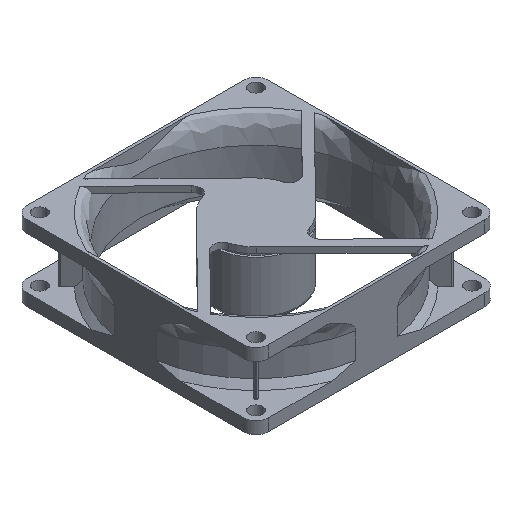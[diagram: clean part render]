
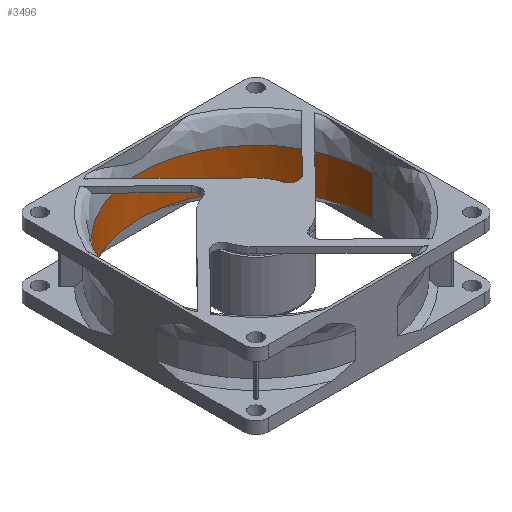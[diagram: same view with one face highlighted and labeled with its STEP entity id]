
A CAD part, isometric view. The second image highlights one B-rep face of the part: STEP entity #3496.
In plain terms, the highlighted cylindrical face has radius 38.6 mm (diameter 77.2 mm), a partial arc.
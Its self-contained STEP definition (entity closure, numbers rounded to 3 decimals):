
#35 = CARTESIAN_POINT ( 'NONE',  ( 38.6, 0., 0. ) ) ;
#114 = ORIENTED_EDGE ( 'NONE', *, *, #3689, .F. ) ;
#292 = CARTESIAN_POINT ( 'NONE',  ( 25.508, 29.081, -8. ) ) ;
#317 = CARTESIAN_POINT ( 'NONE',  ( 30.691, 23.546, -8. ) ) ;
#749 = DIRECTION ( 'NONE',  ( 0., 0., 1. ) ) ;
#756 = CARTESIAN_POINT ( 'NONE',  ( 2.526, 38.6, -8. ) ) ;
#787 = CARTESIAN_POINT ( 'NONE',  ( -38.6, 0., -8. ) ) ;
#818 = CARTESIAN_POINT ( 'NONE',  ( -10.008, 37.365, -8. ) ) ;
#1005 = ORIENTED_EDGE ( 'NONE', *, *, #2016, .T. ) ;
#1172 = CARTESIAN_POINT ( 'NONE',  ( -38.6, 2.526, -8. ) ) ;
#1201 = CARTESIAN_POINT ( 'NONE',  ( -5.053, 38.351, -8. ) ) ;
#1229 = CARTESIAN_POINT ( 'NONE',  ( -37.365, 10.008, -8. ) ) ;
#1384 = FACE_OUTER_BOUND ( 'NONE', #3940, .T. ) ;
#1409 = CYLINDRICAL_SURFACE ( 'NONE', #2472, 38.6 ) ;
#1511 = CIRCLE ( 'NONE', #3169, 38.6 ) ;
#1543 = CARTESIAN_POINT ( 'NONE',  ( -33.498, 19.344, -8. ) ) ;
#1574 = CARTESIAN_POINT ( 'NONE',  ( 5.053, 38.351, -8. ) ) ;
#1599 = CARTESIAN_POINT ( 'NONE',  ( 19.344, 33.498, -8. ) ) ;
#1623 = CARTESIAN_POINT ( 'NONE',  ( 29.081, 25.508, -8. ) ) ;
#1650 = CARTESIAN_POINT ( 'NONE',  ( 38.6, 0., -8. ) ) ;
#1760 = VERTEX_POINT ( 'NONE', #5293 ) ;
#1853 = CARTESIAN_POINT ( 'NONE',  ( -38.6, 0., -21. ) ) ;
#1886 = DIRECTION ( 'NONE',  ( 1., 0., 0. ) ) ;
#1913 = LINE ( 'NONE', #1966, #2737 ) ;
#1948 = CARTESIAN_POINT ( 'NONE',  ( -19.344, 33.498, -8. ) ) ;
#1966 = CARTESIAN_POINT ( 'NONE',  ( -38.6, 0., 0. ) ) ;
#2004 = CARTESIAN_POINT ( 'NONE',  ( 12.438, 36.629, -8. ) ) ;
#2016 = EDGE_CURVE ( 'NONE', #5080, #3535, #2044, .T. ) ;
#2044 = LINE ( 'NONE', #35, #2685 ) ;
#2164 = DIRECTION ( 'NONE',  ( 1., 0., 0. ) ) ;
#2359 = CARTESIAN_POINT ( 'NONE',  ( 23.546, 30.691, -8. ) ) ;
#2472 = AXIS2_PLACEMENT_3D ( 'NONE', #5142, #3075, #1886 ) ;
#2530 = CARTESIAN_POINT ( 'NONE',  ( 0., 0., -21. ) ) ;
#2685 = VECTOR ( 'NONE', #5318, 1000. ) ;
#2737 = VECTOR ( 'NONE', #749, 1000. ) ;
#2776 = CARTESIAN_POINT ( 'NONE',  ( 37.365, 10.008, -8. ) ) ;
#2860 = CARTESIAN_POINT ( 'NONE',  ( -36.629, 12.438, -8. ) ) ;
#2890 = CARTESIAN_POINT ( 'NONE',  ( -38.351, 5.053, -8. ) ) ;
#3024 = B_SPLINE_CURVE_WITH_KNOTS ( 'NONE', 3,
 ( #1650, #4504, #4473, #2776, #4046, #5303, #3699, #317, #1623, #292, #2359, #1599, #5328, #2004, #4909, #1574, #756, #3240, #1201, #818, #4881, #3298, #1948, #5249, #4446, #3213, #4535, #1543, #4855, #2860, #1229, #2890, #1172, #787 ),
 .UNSPECIFIED., .F., .F.,
 ( 4, 2, 2, 2, 2, 2, 2, 2, 2, 2, 2, 2, 2, 2, 2, 2, 4 ),
 ( 0., 0.031, 0.063, 0.094, 0.125, 0.156, 0.188, 0.219, 0.25, 0.281, 0.313, 0.344, 0.375, 0.406, 0.438, 0.469, 0.5 ),
 .UNSPECIFIED. ) ;
#3075 = DIRECTION ( 'NONE',  ( 0., 0., 1. ) ) ;
#3169 = AXIS2_PLACEMENT_3D ( 'NONE', #2530, #3798, #2164 ) ;
#3213 = CARTESIAN_POINT ( 'NONE',  ( -29.081, 25.508, -8. ) ) ;
#3240 = CARTESIAN_POINT ( 'NONE',  ( -2.526, 38.6, -8. ) ) ;
#3278 = EDGE_CURVE ( 'NONE', #3535, #1760, #3024, .T. ) ;
#3298 = CARTESIAN_POINT ( 'NONE',  ( -17.106, 34.695, -8. ) ) ;
#3345 = ORIENTED_EDGE ( 'NONE', *, *, #3278, .T. ) ;
#3403 = EDGE_CURVE ( 'NONE', #5080, #3901, #1511, .T. ) ;
#3451 = ORIENTED_EDGE ( 'NONE', *, *, #3403, .F. ) ;
#3458 = CARTESIAN_POINT ( 'NONE',  ( 38.6, 0., -21. ) ) ;
#3496 = ADVANCED_FACE ( 'NONE', ( #1384 ), #1409, .F. ) ;
#3535 = VERTEX_POINT ( 'NONE', #4307 ) ;
#3689 = EDGE_CURVE ( 'NONE', #3901, #1760, #1913, .T. ) ;
#3699 = CARTESIAN_POINT ( 'NONE',  ( 33.498, 19.344, -8. ) ) ;
#3798 = DIRECTION ( 'NONE',  ( 0., 0., 1. ) ) ;
#3901 = VERTEX_POINT ( 'NONE', #1853 ) ;
#3940 = EDGE_LOOP ( 'NONE', ( #114, #3451, #1005, #3345 ) ) ;
#4046 = CARTESIAN_POINT ( 'NONE',  ( 36.629, 12.438, -8. ) ) ;
#4307 = CARTESIAN_POINT ( 'NONE',  ( 38.6, 0., -8. ) ) ;
#4446 = CARTESIAN_POINT ( 'NONE',  ( -25.508, 29.081, -8. ) ) ;
#4473 = CARTESIAN_POINT ( 'NONE',  ( 38.351, 5.053, -8. ) ) ;
#4504 = CARTESIAN_POINT ( 'NONE',  ( 38.6, 2.526, -8. ) ) ;
#4535 = CARTESIAN_POINT ( 'NONE',  ( -30.691, 23.546, -8. ) ) ;
#4855 = CARTESIAN_POINT ( 'NONE',  ( -34.695, 17.106, -8. ) ) ;
#4881 = CARTESIAN_POINT ( 'NONE',  ( -12.438, 36.629, -8. ) ) ;
#4909 = CARTESIAN_POINT ( 'NONE',  ( 10.008, 37.365, -8. ) ) ;
#5080 = VERTEX_POINT ( 'NONE', #3458 ) ;
#5142 = CARTESIAN_POINT ( 'NONE',  ( 0., 0., 0. ) ) ;
#5249 = CARTESIAN_POINT ( 'NONE',  ( -23.546, 30.691, -8. ) ) ;
#5293 = CARTESIAN_POINT ( 'NONE',  ( -38.6, 0., -8. ) ) ;
#5303 = CARTESIAN_POINT ( 'NONE',  ( 34.695, 17.106, -8. ) ) ;
#5318 = DIRECTION ( 'NONE',  ( 0., 0., 1. ) ) ;
#5328 = CARTESIAN_POINT ( 'NONE',  ( 17.106, 34.695, -8. ) ) ;
